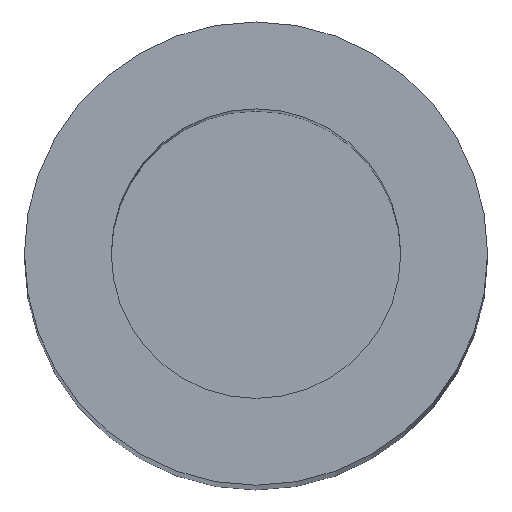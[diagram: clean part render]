
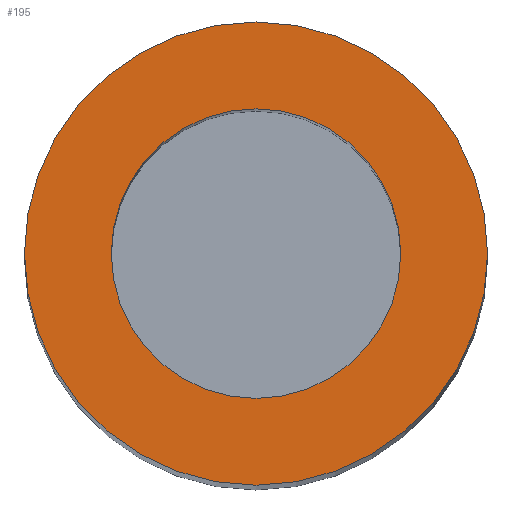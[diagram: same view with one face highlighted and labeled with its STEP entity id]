
A CAD part, top view. The second image highlights one B-rep face of the part: STEP entity #195.
In plain terms, the highlighted planar face has unit normal (0, 0, 1).
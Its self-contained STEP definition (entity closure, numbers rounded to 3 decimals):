
#3 = EDGE_CURVE ( 'NONE', #105, #86, #284, .T. ) ;
#12 = CARTESIAN_POINT ( 'NONE',  ( 0., 0., 71. ) ) ;
#23 = EDGE_LOOP ( 'NONE', ( #282, #144 ) ) ;
#33 = DIRECTION ( 'NONE',  ( 0., 0., 1. ) ) ;
#35 = DIRECTION ( 'NONE',  ( 1., 0., 0. ) ) ;
#37 = VERTEX_POINT ( 'NONE', #137 ) ;
#39 = EDGE_CURVE ( 'NONE', #197, #37, #43, .T. ) ;
#43 = CIRCLE ( 'NONE', #295, 3.75 ) ;
#49 = CIRCLE ( 'NONE', #121, 3.75 ) ;
#58 = FACE_OUTER_BOUND ( 'NONE', #23, .T. ) ;
#68 = DIRECTION ( 'NONE',  ( 0., 0., 1. ) ) ;
#70 = DIRECTION ( 'NONE',  ( 0., 0., 1. ) ) ;
#78 = AXIS2_PLACEMENT_3D ( 'NONE', #110, #205, #35 ) ;
#86 = VERTEX_POINT ( 'NONE', #156 ) ;
#89 = ORIENTED_EDGE ( 'NONE', *, *, #39, .F. ) ;
#97 = AXIS2_PLACEMENT_3D ( 'NONE', #12, #151, #290 ) ;
#105 = VERTEX_POINT ( 'NONE', #184 ) ;
#106 = AXIS2_PLACEMENT_3D ( 'NONE', #254, #70, #217 ) ;
#110 = CARTESIAN_POINT ( 'NONE',  ( 0., 0., 71. ) ) ;
#121 = AXIS2_PLACEMENT_3D ( 'NONE', #201, #33, #175 ) ;
#122 = CIRCLE ( 'NONE', #97, 6. ) ;
#131 = CARTESIAN_POINT ( 'NONE',  ( -3.75, 0., 71. ) ) ;
#137 = CARTESIAN_POINT ( 'NONE',  ( 3.75, 0., 71. ) ) ;
#141 = ORIENTED_EDGE ( 'NONE', *, *, #248, .F. ) ;
#144 = ORIENTED_EDGE ( 'NONE', *, *, #214, .T. ) ;
#151 = DIRECTION ( 'NONE',  ( 0., 0., 1. ) ) ;
#152 = PLANE ( 'NONE',  #78 ) ;
#156 = CARTESIAN_POINT ( 'NONE',  ( 6., 0., 71. ) ) ;
#159 = EDGE_LOOP ( 'NONE', ( #141, #89 ) ) ;
#175 = DIRECTION ( 'NONE',  ( 1., 0., 0. ) ) ;
#184 = CARTESIAN_POINT ( 'NONE',  ( -6., 0., 71. ) ) ;
#195 = ADVANCED_FACE ( 'NONE', ( #267, #58 ), #152, .T. ) ;
#197 = VERTEX_POINT ( 'NONE', #131 ) ;
#201 = CARTESIAN_POINT ( 'NONE',  ( 0., 0., 71. ) ) ;
#205 = DIRECTION ( 'NONE',  ( 0., 0., 1. ) ) ;
#214 = EDGE_CURVE ( 'NONE', #86, #105, #122, .T. ) ;
#216 = DIRECTION ( 'NONE',  ( 1., 0., 0. ) ) ;
#217 = DIRECTION ( 'NONE',  ( 1., 0., 0. ) ) ;
#239 = CARTESIAN_POINT ( 'NONE',  ( 0., 0., 71. ) ) ;
#248 = EDGE_CURVE ( 'NONE', #37, #197, #49, .T. ) ;
#254 = CARTESIAN_POINT ( 'NONE',  ( 0., 0., 71. ) ) ;
#267 = FACE_BOUND ( 'NONE', #159, .T. ) ;
#282 = ORIENTED_EDGE ( 'NONE', *, *, #3, .T. ) ;
#284 = CIRCLE ( 'NONE', #106, 6. ) ;
#290 = DIRECTION ( 'NONE',  ( 1., 0., 0. ) ) ;
#295 = AXIS2_PLACEMENT_3D ( 'NONE', #239, #68, #216 ) ;
